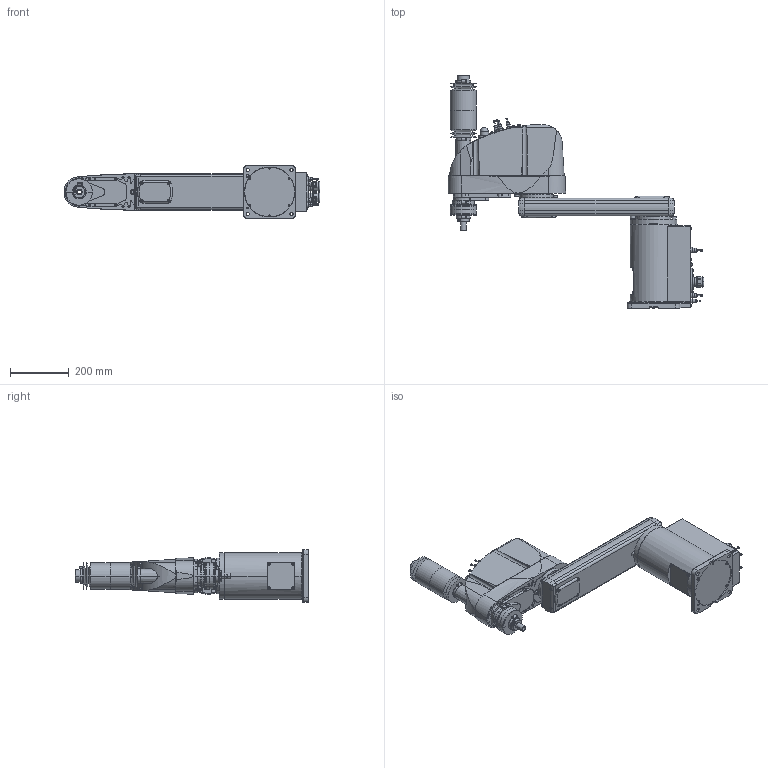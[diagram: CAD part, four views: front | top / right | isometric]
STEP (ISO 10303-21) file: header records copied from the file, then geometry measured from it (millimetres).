
FILE_DESCRIPTION( ( '' ), '1' );
FILE_NAME( '//expscmdclustefs.cadenas.external/client_exchange/iodir/jobs/output/wkb51544346_no0/STEP/G6_651P_2_14b.stp', '2012-11-23T12:17:19', ( '' ), ( '' ), ' ', ' ', ' ' );
FILE_SCHEMA( ( 'automotive_design' ) );
Length unit declared in the file: millimetre
Products named in the file (8): 1; 2; 3; 4; 5; 6; 7; 8
Bounding box: 874 x 795.5 x 180 mm (x, y, z)
Volume: 22291229.2 mm3; surface area: 1119633.1 mm2
Topology: 8 solids, 8 shells, 1811 faces, 4351 edges, 2767 vertices
Faces by surface type: plane 860, cylinder 628, cone 282, torus 40, sphere 1
Entity records: 106101 total; most frequent: CARTESIAN_POINT 12922, DIRECTION 9320, STYLED_ITEM 8907, PRESENTATION_STYLE_ASSIGNMENT 8907, COLOUR_RGB 8907, ORIENTED_EDGE 8642, EDGE_CURVE 4321, CURVE_STYLE 4321
